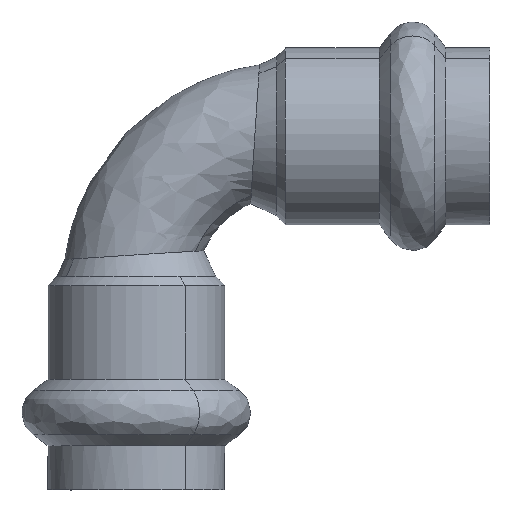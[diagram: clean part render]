
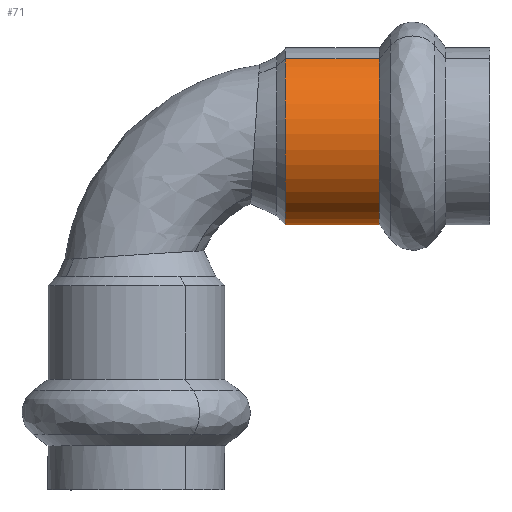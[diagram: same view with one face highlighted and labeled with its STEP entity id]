
A CAD part, front view. The second image highlights one B-rep face of the part: STEP entity #71.
In plain terms, the highlighted cylindrical face has radius 8 mm (diameter 16 mm), a partial arc.
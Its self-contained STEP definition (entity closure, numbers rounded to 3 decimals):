
#71=ADVANCED_FACE('',(#169),#170,.T.);
#169=FACE_OUTER_BOUND('',#467,.T.);
#170=CYLINDRICAL_SURFACE('',#468,8.);
#467=EDGE_LOOP('',(#951,#952,#953,#954));
#468=AXIS2_PLACEMENT_3D('',#955,#956,#957);
#951=ORIENTED_EDGE('',*,*,#1252,.F.);
#952=ORIENTED_EDGE('',*,*,#1253,.F.);
#953=ORIENTED_EDGE('',*,*,#1254,.F.);
#954=ORIENTED_EDGE('',*,*,#1255,.T.);
#955=CARTESIAN_POINT('',(15.2,0.,0.));
#956=DIRECTION('',(-1.0,0.,0.));
#957=DIRECTION('',(0.,0.48,-0.877));
#1252=EDGE_CURVE('',#1407,#1395,#1408,.T.);
#1253=EDGE_CURVE('',#1409,#1407,#1410,.T.);
#1254=EDGE_CURVE('',#1401,#1409,#1411,.T.);
#1255=EDGE_CURVE('',#1401,#1395,#1412,.T.);
#1395=VERTEX_POINT('',#1724);
#1401=VERTEX_POINT('',#1731);
#1407=VERTEX_POINT('',#1738);
#1408=LINE('',#1739,#1740);
#1409=VERTEX_POINT('',#1741);
#1410=CIRCLE('',#1742,8.);
#1411=LINE('',#1743,#1744);
#1412=CIRCLE('',#1745,8.0);
#1724=CARTESIAN_POINT('',(13.5,3.844,-7.016));
#1731=CARTESIAN_POINT('',(13.5,-3.844,7.016));
#1738=CARTESIAN_POINT('',(22.,3.844,-7.016));
#1739=CARTESIAN_POINT('',(15.2,3.844,-7.016));
#1740=VECTOR('',#2304,1.0);
#1741=CARTESIAN_POINT('',(22.,-3.844,7.016));
#1742=AXIS2_PLACEMENT_3D('',#2305,#2306,#2307);
#1743=CARTESIAN_POINT('',(15.2,-3.844,7.016));
#1744=VECTOR('',#2308,1.0);
#1745=AXIS2_PLACEMENT_3D('',#2309,#2310,#2311);
#2304=DIRECTION('',(-1.0,0.,0.));
#2305=CARTESIAN_POINT('',(22.,0.,0.));
#2306=DIRECTION('',(1.0,0.,0.));
#2307=DIRECTION('',(0.,0.877,0.48));
#2308=DIRECTION('',(1.0,0.,0.));
#2309=CARTESIAN_POINT('',(13.5,0.,0.));
#2310=DIRECTION('',(1.0,0.,0.));
#2311=DIRECTION('',(0.,0.877,0.48));
